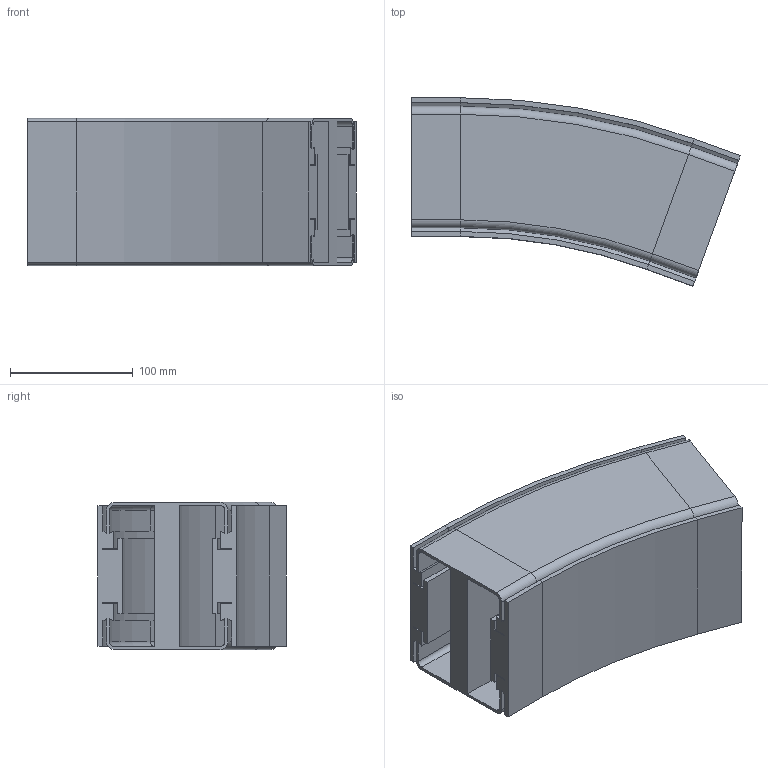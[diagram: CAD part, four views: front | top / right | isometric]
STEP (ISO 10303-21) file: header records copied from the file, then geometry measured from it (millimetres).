
FILE_DESCRIPTION (( 'STEP AP214' ), '1' );
FILE_NAME ('VC.120 Verticale bochtsectie.R500 20.STEP', '2017-02-08T08:10:11', ( '' ), ( '' ), 'SwSTEP 2.0', 'SolidWorks 2016', '' );
FILE_SCHEMA (( 'AUTOMOTIVE_DESIGN' ));
Length unit declared in the file: millimetre
Products named in the file (1): VC.120 Verticale bochtsectie.R500 20
Bounding box: 267.92 x 153.43 x 120 mm (x, y, z)
Volume: 1500759.3 mm3; surface area: 374681.6 mm2
Topology: 1 solids, 1 shells, 206 faces, 476 edges, 272 vertices
Faces by surface type: plane 144, cylinder 46, cone 8, torus 8
Entity records: 5674 total; most frequent: DIRECTION 990, CARTESIAN_POINT 955, ORIENTED_EDGE 952, EDGE_CURVE 476, LINE 376, VECTOR 376, AXIS2_PLACEMENT_3D 307, VERTEX_POINT 272
